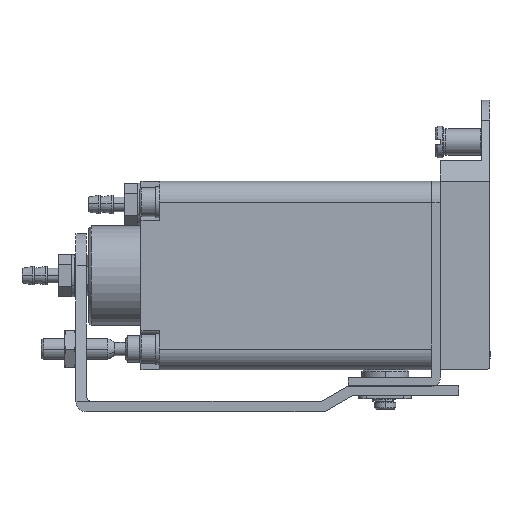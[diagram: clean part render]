
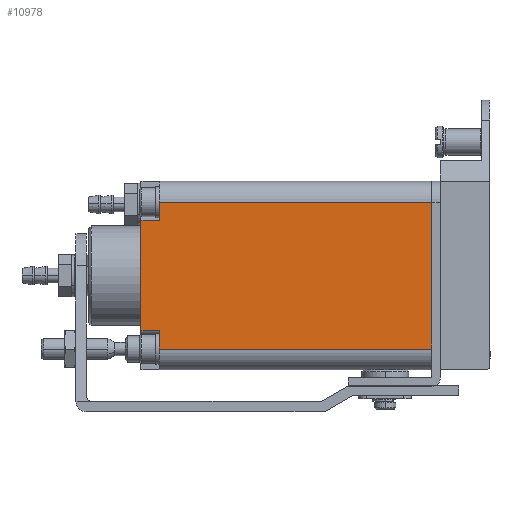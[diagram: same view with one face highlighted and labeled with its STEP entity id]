
A CAD part, left-side view. The second image highlights one B-rep face of the part: STEP entity #10978.
In plain terms, the highlighted planar face has unit normal (-1, 0, 0).
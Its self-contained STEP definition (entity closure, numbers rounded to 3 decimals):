
#84 = DIRECTION ( 'NONE',  ( 0., 0., -1. ) ) ;
#607 = EDGE_CURVE ( 'NONE', #38289, #3062, #24851, .T. ) ;
#643 = VERTEX_POINT ( 'NONE', #40893 ) ;
#865 = CARTESIAN_POINT ( 'NONE',  ( -14., 50.5, 14. ) ) ;
#1541 = CARTESIAN_POINT ( 'NONE',  ( -14., 0., 0. ) ) ;
#1757 = CARTESIAN_POINT ( 'NONE',  ( -14., 50.5, -10.5 ) ) ;
#1884 = CARTESIAN_POINT ( 'NONE',  ( -14., 44.5, -16.8 ) ) ;
#2902 = CARTESIAN_POINT ( 'NONE',  ( -14., 53.75, 10.5 ) ) ;
#3062 = VERTEX_POINT ( 'NONE', #40249 ) ;
#3284 = ORIENTED_EDGE ( 'NONE', *, *, #21050, .T. ) ;
#5036 = DIRECTION ( 'NONE',  ( 0., 0., 1. ) ) ;
#6956 = VECTOR ( 'NONE', #30771, 1000. ) ;
#7286 = VECTOR ( 'NONE', #11592, 1000. ) ;
#8139 = PLANE ( 'NONE',  #24275 ) ;
#8193 = LINE ( 'NONE', #12758, #32631 ) ;
#9310 = CARTESIAN_POINT ( 'NONE',  ( -14., 52., -14. ) ) ;
#9564 = EDGE_CURVE ( 'NONE', #14896, #33355, #38817, .T. ) ;
#9693 = ORIENTED_EDGE ( 'NONE', *, *, #10426, .F. ) ;
#10426 = EDGE_CURVE ( 'NONE', #38289, #14896, #40930, .T. ) ;
#10633 = ORIENTED_EDGE ( 'NONE', *, *, #37823, .T. ) ;
#10978 = ADVANCED_FACE ( 'NONE', ( #38878 ), #8139, .T. ) ;
#11122 = LINE ( 'NONE', #26769, #18639 ) ;
#11592 = DIRECTION ( 'NONE',  ( 0., 0., -1. ) ) ;
#12758 = CARTESIAN_POINT ( 'NONE',  ( -14., 52., 0. ) ) ;
#12922 = EDGE_CURVE ( 'NONE', #3062, #40418, #8193, .T. ) ;
#14896 = VERTEX_POINT ( 'NONE', #35169 ) ;
#15499 = CARTESIAN_POINT ( 'NONE',  ( -14., 52., 10.5 ) ) ;
#16373 = VECTOR ( 'NONE', #39334, 1000. ) ;
#17261 = CARTESIAN_POINT ( 'NONE',  ( -14., 55.5, -10.5 ) ) ;
#17797 = EDGE_LOOP ( 'NONE', ( #3284, #22561, #29977, #9693, #22903, #27764, #31560, #10633 ) ) ;
#18043 = VERTEX_POINT ( 'NONE', #39307 ) ;
#18402 = CARTESIAN_POINT ( 'NONE',  ( -14., 0., 14. ) ) ;
#18639 = VECTOR ( 'NONE', #29981, 1000. ) ;
#18961 = DIRECTION ( 'NONE',  ( 0., -1., 0. ) ) ;
#21050 = EDGE_CURVE ( 'NONE', #24797, #643, #39296, .T. ) ;
#22561 = ORIENTED_EDGE ( 'NONE', *, *, #31813, .T. ) ;
#22903 = ORIENTED_EDGE ( 'NONE', *, *, #607, .T. ) ;
#24176 = DIRECTION ( 'NONE',  ( -1., 0., 0. ) ) ;
#24273 = CARTESIAN_POINT ( 'NONE',  ( -14., 52., 0. ) ) ;
#24275 = AXIS2_PLACEMENT_3D ( 'NONE', #1884, #24176, #5036 ) ;
#24288 = LINE ( 'NONE', #24273, #7286 ) ;
#24797 = VERTEX_POINT ( 'NONE', #18402 ) ;
#24851 = LINE ( 'NONE', #1757, #16373 ) ;
#26329 = DIRECTION ( 'NONE',  ( 0., 1., 0. ) ) ;
#26769 = CARTESIAN_POINT ( 'NONE',  ( -14., 50.5, -14. ) ) ;
#27564 = CARTESIAN_POINT ( 'NONE',  ( -14., 55.5, 0. ) ) ;
#27670 = EDGE_CURVE ( 'NONE', #40418, #18043, #11122, .T. ) ;
#27764 = ORIENTED_EDGE ( 'NONE', *, *, #12922, .T. ) ;
#29366 = VECTOR ( 'NONE', #18961, 1000. ) ;
#29977 = ORIENTED_EDGE ( 'NONE', *, *, #9564, .F. ) ;
#29981 = DIRECTION ( 'NONE',  ( 0., -1., 0. ) ) ;
#30771 = DIRECTION ( 'NONE',  ( 0., 0., 1. ) ) ;
#31560 = ORIENTED_EDGE ( 'NONE', *, *, #27670, .T. ) ;
#31813 = EDGE_CURVE ( 'NONE', #643, #33355, #24288, .T. ) ;
#32631 = VECTOR ( 'NONE', #84, 1000. ) ;
#33263 = LINE ( 'NONE', #1541, #40733 ) ;
#33355 = VERTEX_POINT ( 'NONE', #15499 ) ;
#35169 = CARTESIAN_POINT ( 'NONE',  ( -14., 55.5, 10.5 ) ) ;
#36501 = DIRECTION ( 'NONE',  ( 0., 0., 1. ) ) ;
#37823 = EDGE_CURVE ( 'NONE', #18043, #24797, #33263, .T. ) ;
#38289 = VERTEX_POINT ( 'NONE', #17261 ) ;
#38290 = VECTOR ( 'NONE', #26329, 1000. ) ;
#38817 = LINE ( 'NONE', #2902, #29366 ) ;
#38878 = FACE_OUTER_BOUND ( 'NONE', #17797, .T. ) ;
#39296 = LINE ( 'NONE', #865, #38290 ) ;
#39307 = CARTESIAN_POINT ( 'NONE',  ( -14., 0., -14. ) ) ;
#39334 = DIRECTION ( 'NONE',  ( 0., -1., 0. ) ) ;
#40249 = CARTESIAN_POINT ( 'NONE',  ( -14., 52., -10.5 ) ) ;
#40418 = VERTEX_POINT ( 'NONE', #9310 ) ;
#40733 = VECTOR ( 'NONE', #36501, 1000. ) ;
#40893 = CARTESIAN_POINT ( 'NONE',  ( -14., 52., 14. ) ) ;
#40930 = LINE ( 'NONE', #27564, #6956 ) ;
